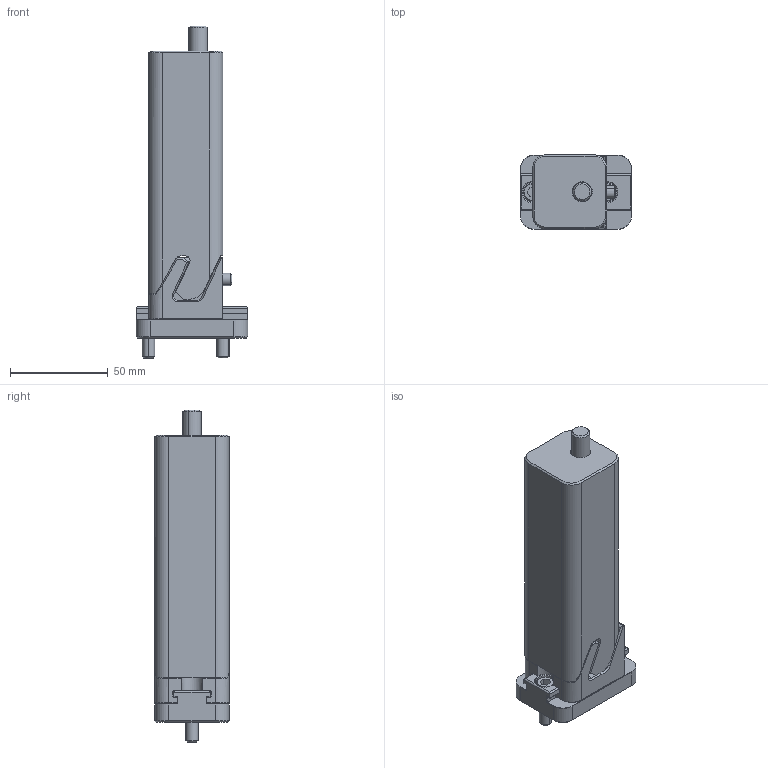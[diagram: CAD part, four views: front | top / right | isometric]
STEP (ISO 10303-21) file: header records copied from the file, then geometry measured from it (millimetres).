
FILE_DESCRIPTION (( 'STEP AP203' ), '1' );
FILE_NAME ('CA-300L.STEP', '2011-01-19T19:22:05', ( '' ), ( '' ), 'SwSTEP 2.0', 'SolidWorks 2008', '' );
FILE_SCHEMA (( 'CONFIG_CONTROL_DESIGN' ));
Length unit declared in the file: inch
Products named in the file (13): CA-300-LK5_LOCK; SRT10; SHCS_1-4_20X3-4; SRT-10_SHSB; CA-300L; CA-300-G_GUIDE; CA-300-S_SLIDE; srt-10_Body; SRT-10_WAVESPRING; SRT-10_AXLE; SRT-10_ROLLER; SHCS_3-8_16X4_1-4; SHCS_1-4_20X7-8
Assembly tree (14 placements, depth 3):
  CA-300L
    SHCS_1-4_20X3-4  x2
    CA-300-G_GUIDE
    SHCS_1-4_20X7-8
    SRT10
      srt-10_Body
      SRT-10_SHSB  x2
      SRT-10_AXLE
      SRT-10_WAVESPRING
      SRT-10_ROLLER
    SHCS_3-8_16X4_1-4
    CA-300-S_SLIDE
    CA-300-LK5_LOCK
Bounding box: 57.15 x 38.1 x 170.05 mm (x, y, z)
Volume: 212424.3 mm3; surface area: 48352.9 mm2
Topology: 13 solids, 13 shells, 617 faces, 1564 edges, 981 vertices
Faces by surface type: plane 285, cylinder 191, cone 127, torus 8, bspline 6
Entity records: 18972 total; most frequent: CARTESIAN_POINT 4174, ORIENTED_EDGE 2892, DIRECTION 2684, EDGE_CURVE 1446, AXIS2_PLACEMENT_3D 945, VERTEX_POINT 907, VECTOR 794, LINE 794
